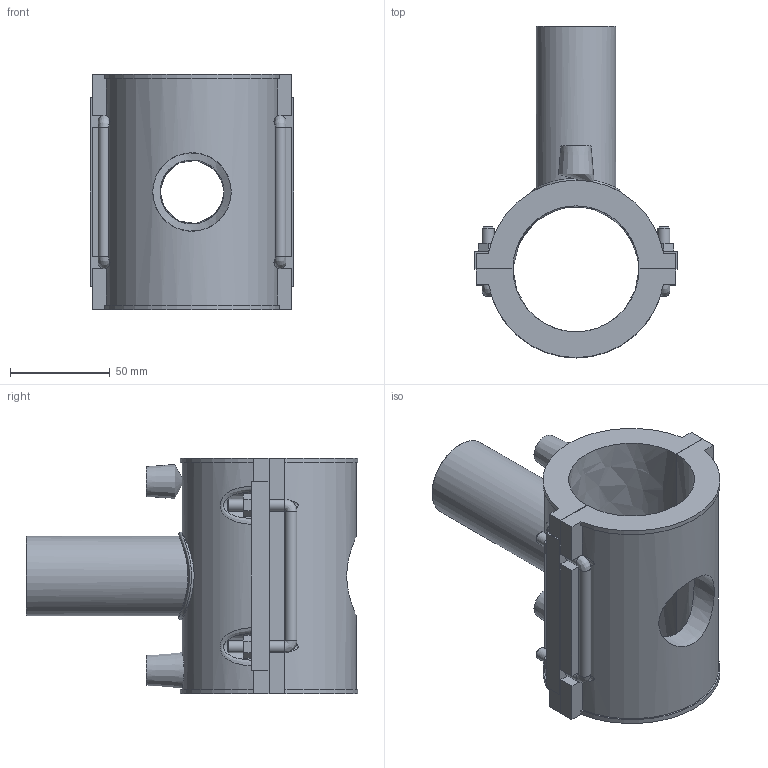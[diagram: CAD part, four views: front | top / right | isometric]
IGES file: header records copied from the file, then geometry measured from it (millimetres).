
Global section: file name: 495804063040.ipt; native system: Autodesk Inventor 2015; preprocessor: unknown; author: KIM; date: 20180426.120822; units: millimetre
Bounding box: 102 x 165.87 x 118 mm (x, y, z)
Volume: 382307.2 mm3; surface area: 97918.2 mm2
Topology: 2 solids, 4 shells, 149 faces, 376 edges, 238 vertices
Faces by surface type: plane 89, cylinder 26, revolution 14, bspline 13, cone 7
Full cylindrical faces by diameter (mm): 4 x2, 6 x8, 40 x1, 44 x1
